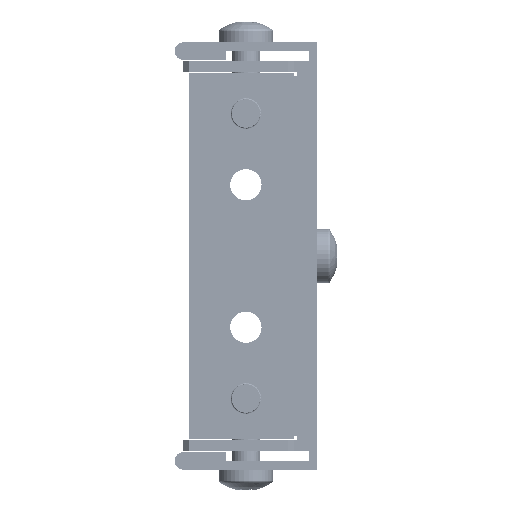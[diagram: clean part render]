
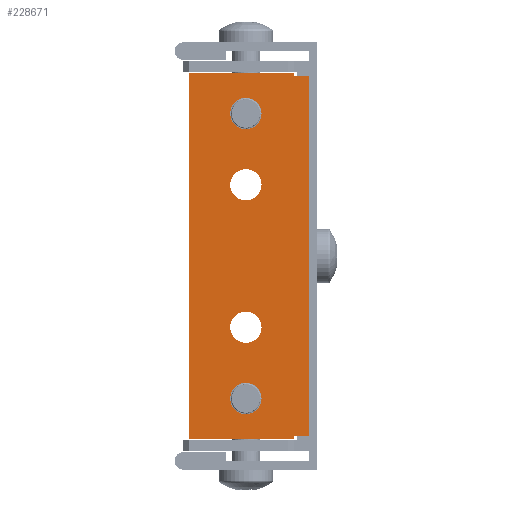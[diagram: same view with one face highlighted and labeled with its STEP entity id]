
A CAD part, front view. The second image highlights one B-rep face of the part: STEP entity #228671.
In plain terms, the highlighted planar face has unit normal (0, -1, 0).
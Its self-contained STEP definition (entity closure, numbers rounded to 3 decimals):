
#227635 = EDGE_CURVE('',#227636,#227638,#227640,.T.);
#227636 = VERTEX_POINT('',#227637);
#227637 = CARTESIAN_POINT('',(-354.1,-750.,-5.35));
#227638 = VERTEX_POINT('',#227639);
#227639 = CARTESIAN_POINT('',(-372.5,-750.,-5.35));
#227640 = LINE('',#227641,#227642);
#227641 = CARTESIAN_POINT('',(-354.1,-750.,-5.35));
#227642 = VECTOR('',#227643,1.);
#227643 = DIRECTION('',(-1.,0.,0.));
#227675 = EDGE_CURVE('',#227676,#227678,#227680,.T.);
#227676 = VERTEX_POINT('',#227677);
#227677 = CARTESIAN_POINT('',(-354.1,-750.,-69.15));
#227678 = VERTEX_POINT('',#227679);
#227679 = CARTESIAN_POINT('',(-354.1,-750.,-69.65));
#227680 = LINE('',#227681,#227682);
#227681 = CARTESIAN_POINT('',(-354.1,-750.,-69.15));
#227682 = VECTOR('',#227683,1.);
#227683 = DIRECTION('',(0.,0.,-1.));
#227715 = EDGE_CURVE('',#227678,#227716,#227718,.T.);
#227716 = VERTEX_POINT('',#227717);
#227717 = CARTESIAN_POINT('',(-372.5,-750.,-69.65));
#227718 = LINE('',#227719,#227720);
#227719 = CARTESIAN_POINT('',(-354.1,-750.,-69.65));
#227720 = VECTOR('',#227721,1.);
#227721 = DIRECTION('',(-1.,0.,0.));
#227753 = EDGE_CURVE('',#227716,#227638,#227754,.T.);
#227754 = LINE('',#227755,#227756);
#227755 = CARTESIAN_POINT('',(-372.5,-750.,-5.85));
#227756 = VECTOR('',#227757,1.);
#227757 = DIRECTION('',(0.,0.,1.));
#227769 = VERTEX_POINT('',#227770);
#227770 = CARTESIAN_POINT('',(-359.75,-750.,-12.5));
#227788 = VERTEX_POINT('',#227789);
#227789 = CARTESIAN_POINT('',(-365.25,-750.,-12.5));
#227795 = EDGE_CURVE('',#227788,#227769,#227796,.T.);
#227796 = CIRCLE('',#227797,2.75);
#227797 = AXIS2_PLACEMENT_3D('',#227798,#227799,#227800);
#227798 = CARTESIAN_POINT('',(-362.5,-750.,-12.5));
#227799 = DIRECTION('',(0.,1.,0.));
#227800 = DIRECTION('',(1.,0.,0.));
#227818 = EDGE_CURVE('',#227769,#227788,#227819,.T.);
#227819 = CIRCLE('',#227820,2.75);
#227820 = AXIS2_PLACEMENT_3D('',#227821,#227822,#227823);
#227821 = CARTESIAN_POINT('',(-362.5,-750.,-12.5));
#227822 = DIRECTION('',(0.,1.,0.));
#227823 = DIRECTION('',(1.,0.,0.));
#227835 = VERTEX_POINT('',#227836);
#227836 = CARTESIAN_POINT('',(-359.75,-750.,-50.));
#227854 = VERTEX_POINT('',#227855);
#227855 = CARTESIAN_POINT('',(-365.25,-750.,-50.));
#227861 = EDGE_CURVE('',#227854,#227835,#227862,.T.);
#227862 = CIRCLE('',#227863,2.75);
#227863 = AXIS2_PLACEMENT_3D('',#227864,#227865,#227866);
#227864 = CARTESIAN_POINT('',(-362.5,-750.,-50.));
#227865 = DIRECTION('',(0.,1.,0.));
#227866 = DIRECTION('',(-1.,0.,0.));
#227884 = EDGE_CURVE('',#227835,#227854,#227885,.T.);
#227885 = CIRCLE('',#227886,2.75);
#227886 = AXIS2_PLACEMENT_3D('',#227887,#227888,#227889);
#227887 = CARTESIAN_POINT('',(-362.5,-750.,-50.));
#227888 = DIRECTION('',(0.,1.,0.));
#227889 = DIRECTION('',(-1.,0.,0.));
#227901 = VERTEX_POINT('',#227902);
#227902 = CARTESIAN_POINT('',(-359.75,-750.,-62.5));
#227920 = VERTEX_POINT('',#227921);
#227921 = CARTESIAN_POINT('',(-365.25,-750.,-62.5));
#227927 = EDGE_CURVE('',#227920,#227901,#227928,.T.);
#227928 = CIRCLE('',#227929,2.75);
#227929 = AXIS2_PLACEMENT_3D('',#227930,#227931,#227932);
#227930 = CARTESIAN_POINT('',(-362.5,-750.,-62.5));
#227931 = DIRECTION('',(0.,1.,0.));
#227932 = DIRECTION('',(-1.,0.,0.));
#227950 = EDGE_CURVE('',#227901,#227920,#227951,.T.);
#227951 = CIRCLE('',#227952,2.75);
#227952 = AXIS2_PLACEMENT_3D('',#227953,#227954,#227955);
#227953 = CARTESIAN_POINT('',(-362.5,-750.,-62.5));
#227954 = DIRECTION('',(0.,1.,0.));
#227955 = DIRECTION('',(-1.,0.,0.));
#227967 = VERTEX_POINT('',#227968);
#227968 = CARTESIAN_POINT('',(-359.75,-750.,-25.));
#227986 = VERTEX_POINT('',#227987);
#227987 = CARTESIAN_POINT('',(-365.25,-750.,-25.));
#227993 = EDGE_CURVE('',#227986,#227967,#227994,.T.);
#227994 = CIRCLE('',#227995,2.75);
#227995 = AXIS2_PLACEMENT_3D('',#227996,#227997,#227998);
#227996 = CARTESIAN_POINT('',(-362.5,-750.,-25.));
#227997 = DIRECTION('',(0.,1.,0.));
#227998 = DIRECTION('',(1.,0.,0.));
#228016 = EDGE_CURVE('',#227967,#227986,#228017,.T.);
#228017 = CIRCLE('',#228018,2.75);
#228018 = AXIS2_PLACEMENT_3D('',#228019,#228020,#228021);
#228019 = CARTESIAN_POINT('',(-362.5,-750.,-25.));
#228020 = DIRECTION('',(0.,1.,0.));
#228021 = DIRECTION('',(1.,0.,0.));
#228032 = EDGE_CURVE('',#228033,#227636,#228035,.T.);
#228033 = VERTEX_POINT('',#228034);
#228034 = CARTESIAN_POINT('',(-354.1,-750.,-5.85));
#228035 = LINE('',#228036,#228037);
#228036 = CARTESIAN_POINT('',(-354.1,-750.,-5.85));
#228037 = VECTOR('',#228038,1.);
#228038 = DIRECTION('',(0.,0.,1.));
#228654 = VERTEX_POINT('',#228655);
#228655 = CARTESIAN_POINT('',(-351.5,-750.,-69.15));
#228661 = EDGE_CURVE('',#227676,#228654,#228662,.T.);
#228662 = LINE('',#228663,#228664);
#228663 = CARTESIAN_POINT('',(-351.5,-750.,-69.15));
#228664 = VECTOR('',#228665,1.);
#228665 = DIRECTION('',(1.,0.,0.));
#228671 = ADVANCED_FACE('',(#228672,#228676,#228680,#228684,#228688),
  #228710,.T.);
#228672 = FACE_BOUND('',#228673,.T.);
#228673 = EDGE_LOOP('',(#228674,#228675));
#228674 = ORIENTED_EDGE('',*,*,#228016,.T.);
#228675 = ORIENTED_EDGE('',*,*,#227993,.T.);
#228676 = FACE_BOUND('',#228677,.T.);
#228677 = EDGE_LOOP('',(#228678,#228679));
#228678 = ORIENTED_EDGE('',*,*,#227950,.T.);
#228679 = ORIENTED_EDGE('',*,*,#227927,.T.);
#228680 = FACE_BOUND('',#228681,.T.);
#228681 = EDGE_LOOP('',(#228682,#228683));
#228682 = ORIENTED_EDGE('',*,*,#227884,.T.);
#228683 = ORIENTED_EDGE('',*,*,#227861,.T.);
#228684 = FACE_BOUND('',#228685,.T.);
#228685 = EDGE_LOOP('',(#228686,#228687));
#228686 = ORIENTED_EDGE('',*,*,#227818,.T.);
#228687 = ORIENTED_EDGE('',*,*,#227795,.T.);
#228688 = FACE_BOUND('',#228689,.T.);
#228689 = EDGE_LOOP('',(#228690,#228691,#228692,#228693,#228694,#228702,
    #228708,#228709));
#228690 = ORIENTED_EDGE('',*,*,#227753,.F.);
#228691 = ORIENTED_EDGE('',*,*,#227715,.F.);
#228692 = ORIENTED_EDGE('',*,*,#227675,.F.);
#228693 = ORIENTED_EDGE('',*,*,#228661,.T.);
#228694 = ORIENTED_EDGE('',*,*,#228695,.T.);
#228695 = EDGE_CURVE('',#228654,#228696,#228698,.T.);
#228696 = VERTEX_POINT('',#228697);
#228697 = CARTESIAN_POINT('',(-351.5,-750.,-5.85));
#228698 = LINE('',#228699,#228700);
#228699 = CARTESIAN_POINT('',(-351.5,-750.,-37.5));
#228700 = VECTOR('',#228701,1.);
#228701 = DIRECTION('',(0.,0.,1.));
#228702 = ORIENTED_EDGE('',*,*,#228703,.F.);
#228703 = EDGE_CURVE('',#228033,#228696,#228704,.T.);
#228704 = LINE('',#228705,#228706);
#228705 = CARTESIAN_POINT('',(-351.5,-750.,-5.85));
#228706 = VECTOR('',#228707,1.);
#228707 = DIRECTION('',(1.,0.,0.));
#228708 = ORIENTED_EDGE('',*,*,#228032,.T.);
#228709 = ORIENTED_EDGE('',*,*,#227635,.T.);
#228710 = PLANE('',#228711);
#228711 = AXIS2_PLACEMENT_3D('',#228712,#228713,#228714);
#228712 = CARTESIAN_POINT('',(-351.5,-750.,-37.5));
#228713 = DIRECTION('',(0.,-1.,0.));
#228714 = DIRECTION('',(0.,0.,1.));
